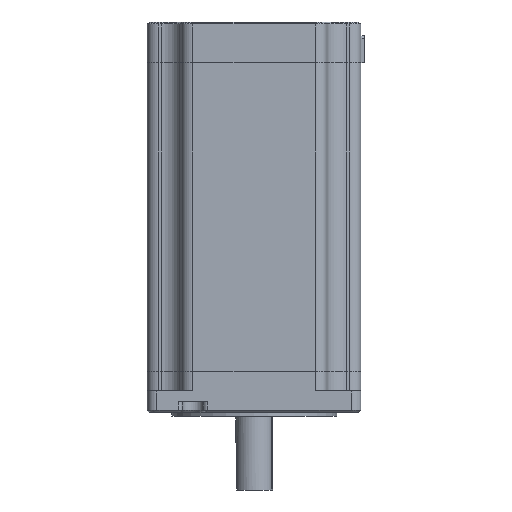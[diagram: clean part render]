
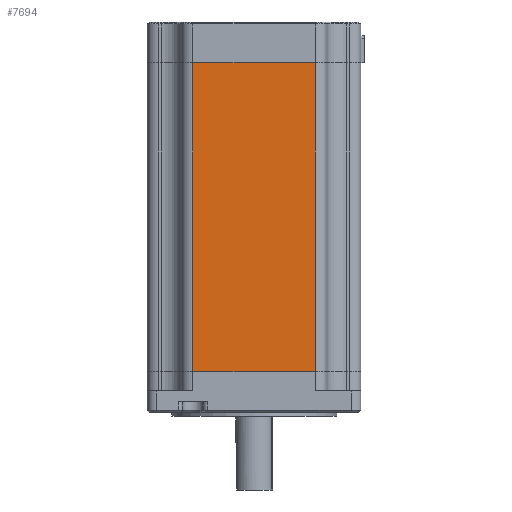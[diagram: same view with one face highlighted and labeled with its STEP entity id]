
A CAD part, front view. The second image highlights one B-rep face of the part: STEP entity #7694.
In plain terms, the highlighted planar face has unit normal (0, -1, 0).
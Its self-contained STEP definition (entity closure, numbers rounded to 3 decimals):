
#809=DIRECTION('',(0.,0.,-1.));
#810=VECTOR('',#809,159.);
#811=CARTESIAN_POINT('',(222.241,61.215,180.));
#812=LINE('',#811,#810);
#827=DIRECTION('',(-1.,0.,0.));
#828=VECTOR('',#827,63.);
#829=CARTESIAN_POINT('',(222.241,61.215,180.));
#830=LINE('',#829,#828);
#831=DIRECTION('',(1.,0.,0.));
#832=VECTOR('',#831,63.);
#833=CARTESIAN_POINT('',(159.241,61.215,21.));
#834=LINE('',#833,#832);
#844=DIRECTION('',(0.,0.,1.));
#845=VECTOR('',#844,159.);
#846=CARTESIAN_POINT('',(159.241,61.215,21.));
#847=LINE('',#846,#845);
#5602=CARTESIAN_POINT('',(222.241,61.215,180.));
#5603=VERTEX_POINT('',#5602);
#5604=CARTESIAN_POINT('',(159.241,61.215,180.));
#5605=VERTEX_POINT('',#5604);
#5646=CARTESIAN_POINT('',(222.241,61.215,21.));
#5647=VERTEX_POINT('',#5646);
#5652=CARTESIAN_POINT('',(159.241,61.215,21.));
#5653=VERTEX_POINT('',#5652);
#7681=CARTESIAN_POINT('',(135.741,61.215,35.));
#7682=DIRECTION('',(0.,-1.,0.));
#7683=DIRECTION('',(0.,0.,-1.));
#7684=AXIS2_PLACEMENT_3D('',#7681,#7682,#7683);
#7685=PLANE('',#7684);
#7687=ORIENTED_EDGE('',*,*,#7686,.T.);
#7688=ORIENTED_EDGE('',*,*,#7341,.F.);
#7689=ORIENTED_EDGE('',*,*,#7672,.T.);
#7691=ORIENTED_EDGE('',*,*,#7690,.F.);
#7692=EDGE_LOOP('',(#7687,#7688,#7689,#7691));
#7693=FACE_OUTER_BOUND('',#7692,.F.);
#7694=ADVANCED_FACE('',(#7693),#7685,.T.);
#7341=EDGE_CURVE('',#5603,#5605,#830,.T.);
#7672=EDGE_CURVE('',#5603,#5647,#812,.T.);
#7686=EDGE_CURVE('',#5653,#5605,#847,.T.);
#7690=EDGE_CURVE('',#5653,#5647,#834,.T.);
